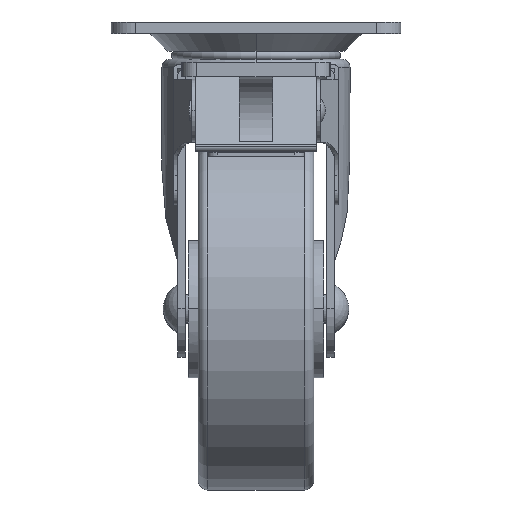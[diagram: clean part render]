
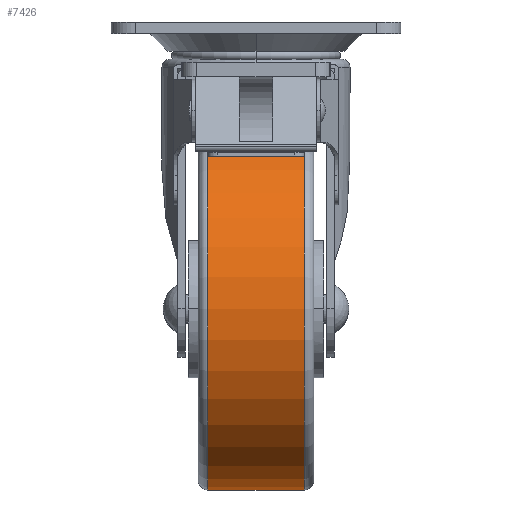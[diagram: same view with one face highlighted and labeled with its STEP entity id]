
A CAD part, top view. The second image highlights one B-rep face of the part: STEP entity #7426.
In plain terms, the highlighted cylindrical face has radius 37.5 mm (diameter 75 mm), a partial arc.
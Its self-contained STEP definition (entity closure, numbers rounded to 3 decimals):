
#16 = EDGE_CURVE ( 'NONE', #504, #3297, #4504, .T. ) ;
#306 = DIRECTION ( 'NONE',  ( 1., 0., 0. ) ) ;
#445 = DIRECTION ( 'NONE',  ( -1., 0., 0. ) ) ;
#504 = VERTEX_POINT ( 'NONE', #6672 ) ;
#651 = EDGE_LOOP ( 'NONE', ( #4621, #3738, #5328, #1851 ) ) ;
#844 = CARTESIAN_POINT ( 'NONE',  ( -10., -37.5, 0. ) ) ;
#1136 = CARTESIAN_POINT ( 'NONE',  ( 10., 37.5, 0. ) ) ;
#1851 = ORIENTED_EDGE ( 'NONE', *, *, #7206, .F. ) ;
#1892 = EDGE_CURVE ( 'NONE', #6071, #504, #6945, .T. ) ;
#2232 = FACE_OUTER_BOUND ( 'NONE', #651, .T. ) ;
#2307 = DIRECTION ( 'NONE',  ( 0., 1., 0. ) ) ;
#2908 = DIRECTION ( 'NONE',  ( 1., 0., 0. ) ) ;
#2949 = CARTESIAN_POINT ( 'NONE',  ( 0., -37.5, 0. ) ) ;
#2960 = VERTEX_POINT ( 'NONE', #3686 ) ;
#3185 = AXIS2_PLACEMENT_3D ( 'NONE', #6271, #2908, #2307 ) ;
#3297 = VERTEX_POINT ( 'NONE', #1136 ) ;
#3301 = CIRCLE ( 'NONE', #6854, 37.5 ) ;
#3332 = DIRECTION ( 'NONE',  ( 0., 1., 0. ) ) ;
#3452 = CARTESIAN_POINT ( 'NONE',  ( 10., 0., 0. ) ) ;
#3474 = DIRECTION ( 'NONE',  ( 1., 0., 0. ) ) ;
#3545 = CYLINDRICAL_SURFACE ( 'NONE', #3185, 37.5 ) ;
#3686 = CARTESIAN_POINT ( 'NONE',  ( -10., 37.5, 0. ) ) ;
#3734 = LINE ( 'NONE', #6002, #4584 ) ;
#3738 = ORIENTED_EDGE ( 'NONE', *, *, #1892, .T. ) ;
#3849 = CARTESIAN_POINT ( 'NONE',  ( -10., 0., 0. ) ) ;
#4504 = CIRCLE ( 'NONE', #6904, 37.5 ) ;
#4517 = DIRECTION ( 'NONE',  ( 0., -1., 0. ) ) ;
#4584 = VECTOR ( 'NONE', #5294, 1000. ) ;
#4621 = ORIENTED_EDGE ( 'NONE', *, *, #7326, .T. ) ;
#5294 = DIRECTION ( 'NONE',  ( 1., 0., 0. ) ) ;
#5328 = ORIENTED_EDGE ( 'NONE', *, *, #16, .T. ) ;
#5968 = VECTOR ( 'NONE', #3474, 1000. ) ;
#6002 = CARTESIAN_POINT ( 'NONE',  ( 0., 37.5, 0. ) ) ;
#6071 = VERTEX_POINT ( 'NONE', #844 ) ;
#6271 = CARTESIAN_POINT ( 'NONE',  ( 0., 0., 0. ) ) ;
#6672 = CARTESIAN_POINT ( 'NONE',  ( 10., -37.5, 0. ) ) ;
#6854 = AXIS2_PLACEMENT_3D ( 'NONE', #3849, #306, #3332 ) ;
#6904 = AXIS2_PLACEMENT_3D ( 'NONE', #3452, #445, #4517 ) ;
#6945 = LINE ( 'NONE', #2949, #5968 ) ;
#7206 = EDGE_CURVE ( 'NONE', #2960, #3297, #3734, .T. ) ;
#7326 = EDGE_CURVE ( 'NONE', #2960, #6071, #3301, .T. ) ;
#7426 = ADVANCED_FACE ( 'NONE', ( #2232 ), #3545, .T. ) ;
